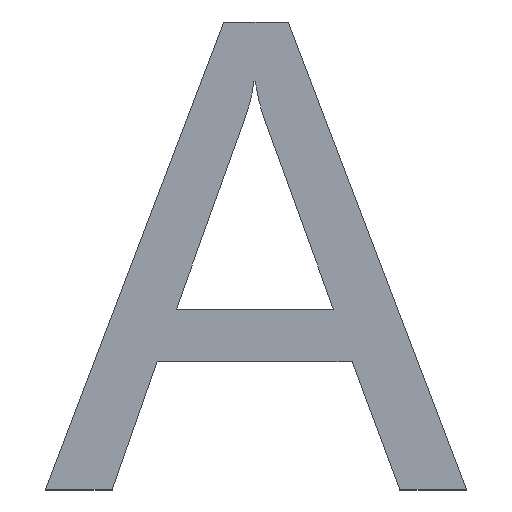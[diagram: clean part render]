
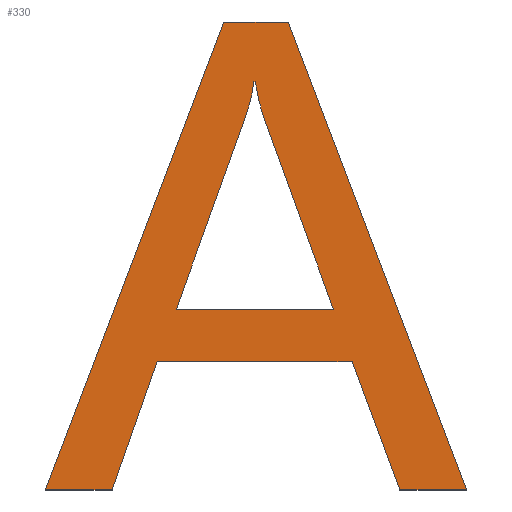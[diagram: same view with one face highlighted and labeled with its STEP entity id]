
A CAD part, top view. The second image highlights one B-rep face of the part: STEP entity #330.
In plain terms, the highlighted planar face has unit normal (0, 0, 1).
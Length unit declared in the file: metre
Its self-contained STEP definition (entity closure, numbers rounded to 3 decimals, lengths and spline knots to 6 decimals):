
#13=B_SPLINE_CURVE_WITH_KNOTS('',3,(#568,#569,#570,#571),.UNSPECIFIED.,
 .F.,.F.,(4,4),(1.,2.),.UNSPECIFIED.);
#16=CIRCLE('',#443,0.000318);
#88=ORIENTED_EDGE('',*,*,#119,.F.);
#89=ORIENTED_EDGE('',*,*,#104,.F.);
#90=ORIENTED_EDGE('',*,*,#108,.F.);
#91=ORIENTED_EDGE('',*,*,#111,.F.);
#92=ORIENTED_EDGE('',*,*,#114,.F.);
#93=ORIENTED_EDGE('',*,*,#117,.F.);
#94=ORIENTED_EDGE('',*,*,#143,.T.);
#95=ORIENTED_EDGE('',*,*,#140,.T.);
#96=ORIENTED_EDGE('',*,*,#137,.T.);
#97=ORIENTED_EDGE('',*,*,#134,.T.);
#98=ORIENTED_EDGE('',*,*,#131,.T.);
#99=ORIENTED_EDGE('',*,*,#128,.T.);
#100=ORIENTED_EDGE('',*,*,#125,.T.);
#101=ORIENTED_EDGE('',*,*,#122,.T.);
#104=EDGE_CURVE('',#146,#147,#174,.T.);
#108=EDGE_CURVE('',#149,#146,#16,.T.);
#111=EDGE_CURVE('',#151,#149,#179,.T.);
#114=EDGE_CURVE('',#153,#151,#13,.T.);
#117=EDGE_CURVE('',#155,#153,#183,.T.);
#119=EDGE_CURVE('',#147,#155,#185,.T.);
#122=EDGE_CURVE('',#159,#158,#188,.T.);
#125=EDGE_CURVE('',#161,#159,#191,.T.);
#128=EDGE_CURVE('',#163,#161,#194,.T.);
#131=EDGE_CURVE('',#165,#163,#197,.T.);
#134=EDGE_CURVE('',#167,#165,#200,.T.);
#137=EDGE_CURVE('',#169,#167,#203,.T.);
#140=EDGE_CURVE('',#171,#169,#206,.T.);
#143=EDGE_CURVE('',#158,#171,#209,.T.);
#146=VERTEX_POINT('',#537);
#147=VERTEX_POINT('',#539);
#149=VERTEX_POINT('',#545);
#151=VERTEX_POINT('',#551);
#153=VERTEX_POINT('',#567);
#155=VERTEX_POINT('',#576);
#158=VERTEX_POINT('',#586);
#159=VERTEX_POINT('',#588);
#161=VERTEX_POINT('',#594);
#163=VERTEX_POINT('',#600);
#165=VERTEX_POINT('',#606);
#167=VERTEX_POINT('',#612);
#169=VERTEX_POINT('',#618);
#171=VERTEX_POINT('',#624);
#174=LINE('',#538,#212);
#179=LINE('',#552,#217);
#183=LINE('',#577,#221);
#185=LINE('',#580,#223);
#188=LINE('',#587,#226);
#191=LINE('',#593,#229);
#194=LINE('',#599,#232);
#197=LINE('',#605,#235);
#200=LINE('',#611,#238);
#203=LINE('',#617,#241);
#206=LINE('',#623,#244);
#209=LINE('',#628,#247);
#212=VECTOR('',#463,1.);
#217=VECTOR('',#476,1.);
#221=VECTOR('',#482,1.);
#223=VECTOR('',#486,1.);
#226=VECTOR('',#491,1.);
#229=VECTOR('',#496,1.);
#232=VECTOR('',#501,1.);
#235=VECTOR('',#506,1.);
#238=VECTOR('',#511,1.);
#241=VECTOR('',#516,1.);
#244=VECTOR('',#521,1.);
#247=VECTOR('',#526,1.);
#264=EDGE_LOOP('',(#88,#89,#90,#91,#92,#93));
#265=EDGE_LOOP('',(#94,#95,#96,#97,#98,#99,#100,#101));
#282=FACE_BOUND('',#264,.T.);
#283=FACE_BOUND('',#265,.T.);
#297=PLANE('',#456);
#330=ADVANCED_FACE('',(#282,#283),#297,.F.);
#443=AXIS2_PLACEMENT_3D('',#546,#470,#471);
#456=AXIS2_PLACEMENT_3D('',#630,#529,#530);
#463=DIRECTION('',(-0.339,-0.941,0.));
#470=DIRECTION('',(0.,0.,-1.));
#471=DIRECTION('',(-1.,0.,0.));
#476=DIRECTION('',(-1.,0.,0.));
#482=DIRECTION('',(-0.342,0.94,0.));
#486=DIRECTION('',(1.,0.,0.));
#491=DIRECTION('',(1.,0.,0.));
#496=DIRECTION('',(0.349,-0.937,0.));
#501=DIRECTION('',(1.,0.,0.));
#506=DIRECTION('',(0.332,0.943,0.));
#511=DIRECTION('',(1.,0.,0.));
#516=DIRECTION('',(-0.356,-0.935,0.));
#521=DIRECTION('',(-1.,0.,0.));
#526=DIRECTION('',(-0.356,0.935,0.));
#529=DIRECTION('',(0.,0.,-1.));
#530=DIRECTION('',(-1.,0.,0.));
#537=CARTESIAN_POINT('',(-0.060937,-0.007684,0.024401));
#538=CARTESIAN_POINT('',(-0.060937,-0.007684,0.024401));
#539=CARTESIAN_POINT('',(-0.061055,-0.008014,0.024401));
#545=CARTESIAN_POINT('',(-0.060924,-0.007628,0.024401));
#546=CARTESIAN_POINT('',(-0.061239,-0.007585,0.024401));
#551=CARTESIAN_POINT('',(-0.060921,-0.007628,0.024401));
#552=CARTESIAN_POINT('',(-0.060921,-0.007628,0.024401));
#567=CARTESIAN_POINT('',(-0.060909,-0.007684,0.024401));
#568=CARTESIAN_POINT('',(-0.060909,-0.007684,0.024401));
#569=CARTESIAN_POINT('',(-0.060913,-0.007673,0.024401));
#570=CARTESIAN_POINT('',(-0.060917,-0.007655,0.024401));
#571=CARTESIAN_POINT('',(-0.060921,-0.007628,0.024401));
#576=CARTESIAN_POINT('',(-0.060789,-0.008014,0.024401));
#577=CARTESIAN_POINT('',(-0.060789,-0.008014,0.024401));
#580=CARTESIAN_POINT('',(-0.061055,-0.008014,0.024401));
#586=CARTESIAN_POINT('',(-0.060563,-0.00832,0.024401));
#587=CARTESIAN_POINT('',(-0.060563,-0.00832,0.024401));
#588=CARTESIAN_POINT('',(-0.060676,-0.00832,0.024401));
#593=CARTESIAN_POINT('',(-0.060676,-0.00832,0.024401));
#594=CARTESIAN_POINT('',(-0.060757,-0.008103,0.024401));
#599=CARTESIAN_POINT('',(-0.060757,-0.008103,0.024401));
#600=CARTESIAN_POINT('',(-0.061088,-0.008103,0.024401));
#605=CARTESIAN_POINT('',(-0.061088,-0.008103,0.024401));
#606=CARTESIAN_POINT('',(-0.061164,-0.00832,0.024401));
#611=CARTESIAN_POINT('',(-0.061164,-0.00832,0.024401));
#612=CARTESIAN_POINT('',(-0.061277,-0.00832,0.024401));
#617=CARTESIAN_POINT('',(-0.061277,-0.00832,0.024401));
#618=CARTESIAN_POINT('',(-0.060975,-0.007527,0.024401));
#623=CARTESIAN_POINT('',(-0.060975,-0.007527,0.024401));
#624=CARTESIAN_POINT('',(-0.060865,-0.007527,0.024401));
#628=CARTESIAN_POINT('',(-0.060865,-0.007527,0.024401));
#630=CARTESIAN_POINT('',(-0.105595,-0.007956,0.024401));
